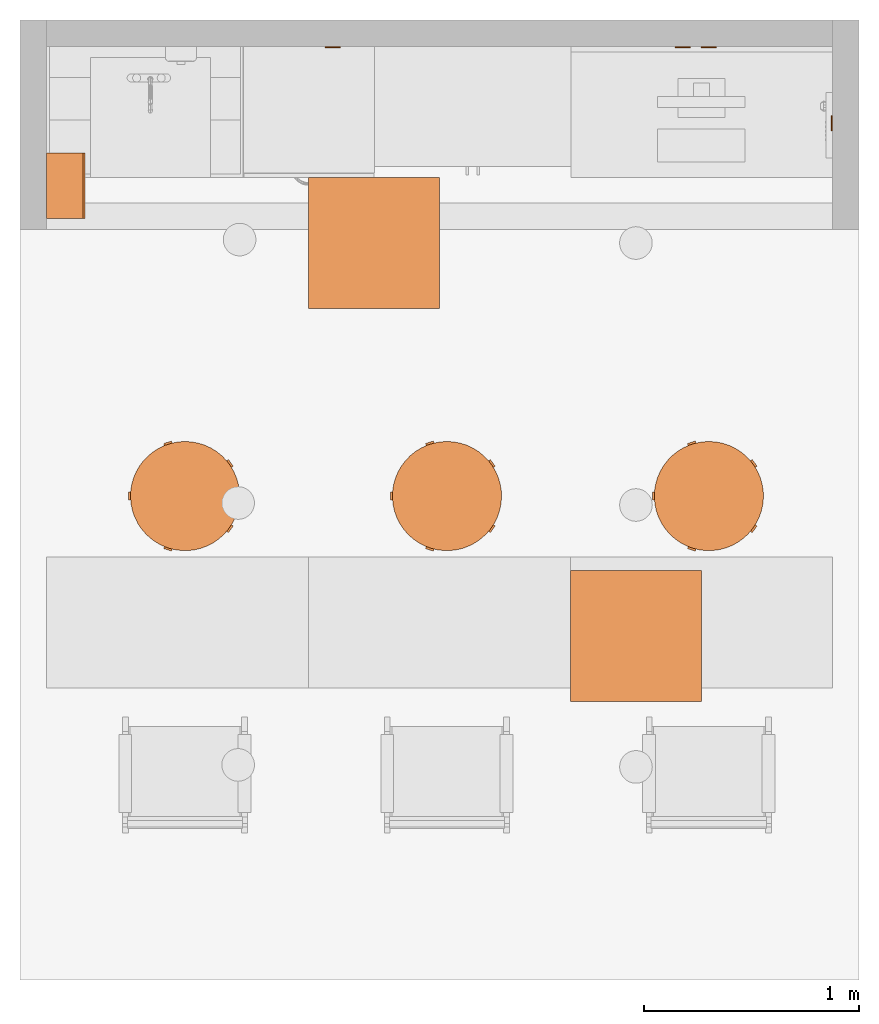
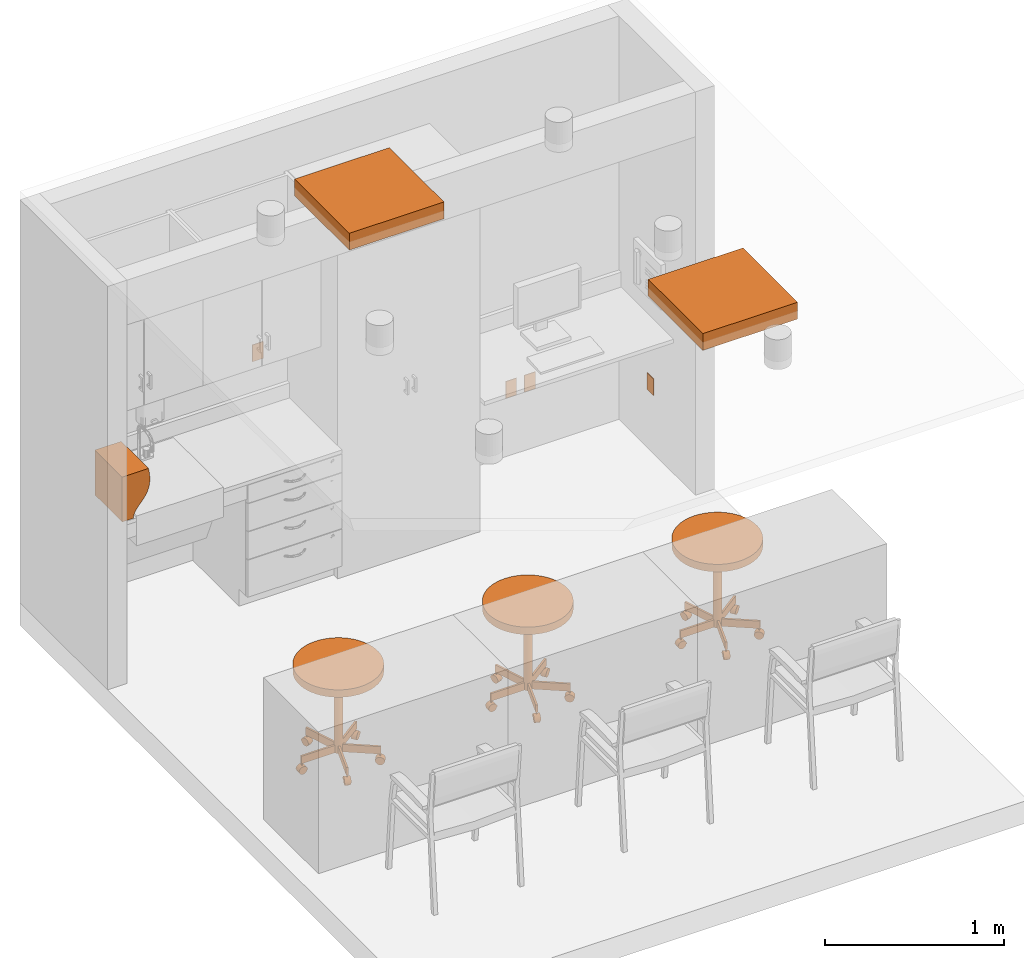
# One storey, part 5 of 8: 10 proxies.
"""IFC2X3 building model written with IfcOpenShell, lengths in feet."""

from ifc_helpers import new_model, entity, si_unit, converted_unit, derived_unit, direction, frame, frame_2d, origin, origin_2d_with_axis, place, context, subcontext, project, spatial, polyline, circle_curve, parameter, trimmed, segment, composite_curve, rectangle, circle, outline, extrude, source, transform, mapped, material, material_list, type_object, type_shapes, element, save


model = new_model("IFC2X3")

# Units and contexts
model_context = context("Model", 3, precision=0.0001, world=origin(), true_north=direction((6.12303176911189e-17, 1.0)))
body_context = subcontext(model_context, "Body", "Model", "MODEL_VIEW")
ifc_project = project(units=[converted_unit("LENGTHUNIT", "FOOT", entity("IfcRatioMeasure", 0.3048), si_unit("LENGTHUNIT", "METRE"), dimensions=[1, 0, 0, 0, 0, 0, 0]), converted_unit("AREAUNIT", "SQUARE FOOT", entity("IfcRatioMeasure", 0.09290304), si_unit("AREAUNIT", "SQUARE_METRE"), dimensions=[2, 0, 0, 0, 0, 0, 0]), converted_unit("VOLUMEUNIT", "CUBIC FOOT", entity("IfcRatioMeasure", 0.028316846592), si_unit("VOLUMEUNIT", "CUBIC_METRE"), dimensions=[3, 0, 0, 0, 0, 0, 0]), converted_unit("PLANEANGLEUNIT", "DEGREE", entity("IfcRatioMeasure", 0.0174532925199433), si_unit("PLANEANGLEUNIT", "RADIAN"), dimensions=[0, 0, 0, 0, 0, 0, 0]), si_unit("MASSUNIT", "GRAM", prefix="KILO"), derived_unit("MASSDENSITYUNIT", [(si_unit("MASSUNIT", "GRAM", prefix="KILO"), 1), (si_unit("LENGTHUNIT", "METRE"), -3)]), si_unit("TIMEUNIT", "SECOND"), si_unit("FREQUENCYUNIT", "HERTZ"), si_unit("THERMODYNAMICTEMPERATUREUNIT", "DEGREE_CELSIUS"), derived_unit("THERMALTRANSMITTANCEUNIT", [(si_unit("MASSUNIT", "GRAM", prefix="KILO"), 1), (si_unit("THERMODYNAMICTEMPERATUREUNIT", "KELVIN"), -1), (si_unit("TIMEUNIT", "SECOND"), -3)]), derived_unit("VOLUMETRICFLOWRATEUNIT", [(si_unit("LENGTHUNIT", "METRE"), 3), (si_unit("TIMEUNIT", "SECOND"), -1)]), si_unit("ELECTRICCURRENTUNIT", "AMPERE"), si_unit("ELECTRICVOLTAGEUNIT", "VOLT"), si_unit("POWERUNIT", "WATT"), si_unit("FORCEUNIT", "NEWTON"), si_unit("ILLUMINANCEUNIT", "LUX"), si_unit("LUMINOUSFLUXUNIT", "LUMEN"), si_unit("LUMINOUSINTENSITYUNIT", "CANDELA"), derived_unit("USERDEFINED", [(si_unit("MASSUNIT", "GRAM", prefix="KILO"), -1), (si_unit("LENGTHUNIT", "METRE"), -2), (si_unit("TIMEUNIT", "SECOND"), 3), (si_unit("LUMINOUSFLUXUNIT", "LUMEN"), 1)]), derived_unit("LINEARVELOCITYUNIT", [(si_unit("LENGTHUNIT", "METRE"), 1), (si_unit("TIMEUNIT", "SECOND"), -1)]), si_unit("PRESSUREUNIT", "PASCAL"), derived_unit("USERDEFINED", [(si_unit("LENGTHUNIT", "METRE"), -2), (si_unit("MASSUNIT", "GRAM", prefix="KILO"), 1), (si_unit("TIMEUNIT", "SECOND"), -2)])], contexts=[model_context])

# Site, building, storey, space
site_placement = place(None, origin())
site = spatial("IfcSite", under=ifc_project, at=site_placement, Name="Default", CompositionType="ELEMENT")
building_placement = place(site_placement, origin())
building = spatial("IfcBuilding", under=site, at=building_placement, Name="EYE CLINIC:  OPTHALMOLOGY AND OPTOMETRY SERVICES (Ch. 233)", CompositionType="ELEMENT")
storey_placement = place(building_placement, origin())
storey = spatial("IfcBuildingStorey", under=building, at=storey_placement, Name="DATUM", CompositionType="ELEMENT", Elevation=0.0)
space_placement = place(storey_placement, origin())
space = spatial("IfcSpace", under=storey, at=space_placement, Name="(OPFD1)", CompositionType="ELEMENT", InteriorOrExteriorSpace="INTERNAL")

# Proxies
building_element_proxy_type_1 = type_object("IfcBuildingElementProxyType", Name="A5082 - Dispenser, Paper Towel, Sensor, Hands Free", PredefinedType="NOTDEFINED")
shared_shape_1 = source(origin(), body_context, "Body", "SweptSolid", [
    extrude(outline(polyline([(-0.394840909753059, -0.5716804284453), (0.162901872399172, -0.5716804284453), (0.181242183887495, -0.466986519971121), (0.189922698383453, -0.373421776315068), (0.189954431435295, -0.2899834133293), (0.182348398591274, -0.215668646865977), (0.168115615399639, -0.149474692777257), (0.148267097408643, -0.0903987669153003), (0.123813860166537, -0.0374380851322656), (0.095766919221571, 0.0104101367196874), (0.0651372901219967, 0.0541486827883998), (0.0329359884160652, 0.0947803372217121), (0.000174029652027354, 0.133307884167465), (-0.0321375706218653, 0.1707341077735), (-0.0629877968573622, 0.208061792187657), (-0.0913656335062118, 0.246293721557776), (-0.116260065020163, 0.2864326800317), (-0.136660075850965, 0.329481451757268), (-0.151554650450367, 0.376442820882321), (-0.159932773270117, 0.4283195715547), (-0.394840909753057, 0.428319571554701), (-0.394840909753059, -0.5716804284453)])), frame((0.0, -0.394840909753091, 0.428319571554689), z_axis=(1.0, 0.0, 0.0), x_axis=(0.0, -1.0, 0.0)), (0.0, 0.0, 1.0), 1.0),
])
type_shapes(building_element_proxy_type_1, [shared_shape_1])
proxy_1_placement = place(space_placement, frame((379.563539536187, 9.10428626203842, 3.5), z_axis=(0.0, 0.0, 1.0), x_axis=(0.0, 1.0, 0.0)))
element("IfcBuildingElementProxy", 1, at=proxy_1_placement, inside=space, type_object=building_element_proxy_type_1, Name="A5082 - Dispenser, Paper Towel, Sensor, Hands Free:A5082 - Dispenser, Paper Towel, Sensor, Hands Free", ObjectType="A5082 - Dispenser, Paper Towel, Sensor, Hands Free", context=body_context, shape_type="MappedRepresentation", body=[
    mapped(shared_shape_1, transform((0.0, 0.0, 0.0), scale=1.0)),
])
ifc_material_1 = material(Name="Stool caster")
ifc_material_2 = material(Name="Stool metal")
ifc_material_3 = material(Name="Stool cushion")
ifc_material_list_1 = material_list([ifc_material_1, ifc_material_2, ifc_material_3])
ifc_material_list_2 = material_list([ifc_material_1, ifc_material_2, ifc_material_3])
building_element_proxy_type_2 = type_object("IfcBuildingElementProxyType", Name="F0340 - Stool, Self Adjusting", PredefinedType="NOTDEFINED", material=ifc_material_list_2)
shared_shape_2 = source(origin(), body_context, "Body", "SweptSolid", [
    extrude(circle(Radius=0.084518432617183, at=frame_2d((0.0, -1.38777878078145e-16), x_axis=(1.0, 0.0))), frame((0.717011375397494, 0.287734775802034, 0.0845184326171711), z_axis=(0.309016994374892, -0.951056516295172, 0.0), x_axis=(-0.951056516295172, -0.309016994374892, 0.0)), (0.0, 0.0, 1.0), 0.104166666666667),
    extrude(outline(composite_curve([segment(polyline([(-0.0925649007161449, 0.0), (0.0925649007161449, 0.0)]), True, "CONTINUOUS"), segment(trimmed(circle_curve(origin_2d_with_axis(), 0.0925649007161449), [parameter(2.03555499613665e-13)], [parameter(180.0)], True, "PARAMETER"), True, "CONTINUOUS")], self_intersect=False)), frame((0.752419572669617, 0.178759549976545, 0.0845184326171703), z_axis=(-0.309016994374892, 0.951056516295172, 0.0), x_axis=(-0.951056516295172, -0.309016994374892, 0.0)), (0.0, 0.0, 1.0), 0.125),
    extrude(circle(Radius=0.0115130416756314, at=frame_2d((7.9106571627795e-18, 1.14165428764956e-16), x_axis=(1.0, 0.0))), frame((0.73310678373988, 0.238198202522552, 0.177083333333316), z_axis=(0.0, 0.0, 1.0), x_axis=(0.309016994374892, -0.951056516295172, 0.0)), (0.0, 0.0, 1.0), 0.0442708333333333),
    extrude(rectangle(XDim=0.0416641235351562, YDim=0.7059128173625, at=frame_2d((1.38777878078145e-17, 0.0), x_axis=(1.0, 0.0))), frame((0.412570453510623, 0.134049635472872, 0.221354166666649), z_axis=(0.0, 0.0, 1.0), x_axis=(-0.309016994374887, 0.951056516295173, 0.0)), (0.0, 0.0, 1.0), 0.166666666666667),
    extrude(circle(Radius=0.084518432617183, at=frame_2d((0.0, -3.7470027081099e-16), x_axis=(1.0, 0.0))), frame((0.410948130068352, -0.654231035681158, 0.0845184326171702), z_axis=(0.809016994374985, 0.587785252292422, 0.0), x_axis=(-0.587785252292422, 0.809016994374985, 0.0)), (0.0, 0.0, 1.0), 0.104166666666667),
    extrude(outline(composite_curve([segment(polyline([(-0.0925649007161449, 0.0), (0.0925649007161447, 0.0)]), True, "CONTINUOUS"), segment(trimmed(circle_curve(origin_2d_with_axis(), 0.0925649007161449), [parameter(2.03555499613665e-13)], [parameter(180.0)], True, "PARAMETER"), True, "CONTINUOUS")], self_intersect=False)), frame((0.402520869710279, -0.660353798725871, 0.0845184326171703), z_axis=(0.809016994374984, 0.587785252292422, 0.0), x_axis=(-0.587785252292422, 0.809016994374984, 0.0)), (0.0, 0.0, 1.0), 0.125),
    extrude(circle(Radius=0.0115130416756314, at=origin_2d_with_axis()), frame((0.453082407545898, -0.623618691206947, 0.177083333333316), z_axis=(0.0, 0.0, 1.0), x_axis=(-0.809016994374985, -0.587785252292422, 0.0)), (0.0, 0.0, 1.0), 0.0442708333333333),
    extrude(rectangle(XDim=0.0416641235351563, YDim=0.705912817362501, at=frame_2d((0.0, -1.38777878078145e-16), x_axis=(1.0, 0.0))), frame((0.254980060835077, -0.350954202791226, 0.221354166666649), z_axis=(0.0, 0.0, 1.0), x_axis=(0.809016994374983, 0.587785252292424, 0.0)), (0.0, 0.0, 1.0), 0.166666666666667),
    extrude(circle(Radius=0.084518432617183, at=frame_2d((-3.2628636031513e-17, -1.38777878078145e-16), x_axis=(1.0, 0.0))), frame((-0.410948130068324, -0.654231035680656, 0.0845184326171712), z_axis=(-0.809016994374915, 0.587785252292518, 0.0), x_axis=(0.587785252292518, 0.809016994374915, 0.0)), (0.0, 0.0, 1.0), 0.104166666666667),
    extrude(outline(composite_curve([segment(trimmed(circle_curve(origin_2d_with_axis(), 0.0925649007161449), [parameter(180.0)], [parameter(360.0)], True, "PARAMETER"), True, "CONTINUOUS"), segment(polyline([(0.0925649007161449, 0.0), (-0.0925649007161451, 0.0)]), True, "CONTINUOUS")], self_intersect=False)), frame((-0.402520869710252, -0.66035379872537, 0.0845184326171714), z_axis=(-0.809016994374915, 0.587785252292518, 0.0), x_axis=(0.587785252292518, 0.809016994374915, 0.0)), (0.0, 0.0, 1.0), 0.125),
    extrude(circle(Radius=0.0115130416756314, at=frame_2d((-4.49094647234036e-17, -3.2628636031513e-17), x_axis=(1.0, 0.0))), frame((-0.453086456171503, -0.623615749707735, 0.177083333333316), z_axis=(0.0, 0.0, 1.0), x_axis=(-0.809016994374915, 0.587785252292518, 0.0)), (0.0, 0.0, 1.0), 0.0442708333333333),
    extrude(rectangle(XDim=0.0416641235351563, YDim=0.7059128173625, at=frame_2d((-4.16333634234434e-17, 5.55111512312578e-17), x_axis=(1.0, 0.0))), frame((-0.254984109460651, -0.350951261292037, 0.221354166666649), z_axis=(0.0, 0.0, 1.0), x_axis=(0.809016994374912, -0.587785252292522, 0.0)), (0.0, 0.0, 1.0), 0.166666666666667),
    extrude(circle(Radius=0.084518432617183, at=frame_2d((0.0, -1.38777878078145e-16), x_axis=(1.0, 0.0))), frame((-0.749200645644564, 0.188666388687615, 0.0845184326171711), z_axis=(0.309016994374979, 0.951056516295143, 0.0), x_axis=(0.951056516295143, -0.309016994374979, 0.0)), (0.0, 0.0, 1.0), 0.104166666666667),
    extrude(outline(composite_curve([segment(trimmed(circle_curve(origin_2d_with_axis(), 0.0925649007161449), [parameter(180.0)], [parameter(360.0)], True, "PARAMETER"), True, "CONTINUOUS"), segment(polyline([(0.0925649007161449, 0.0), (-0.0925649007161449, 0.0)]), True, "CONTINUOUS")], self_intersect=False)), frame((-0.752419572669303, 0.178759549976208, 0.0845184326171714), z_axis=(0.309016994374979, 0.951056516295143, 0.0), x_axis=(0.951056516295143, -0.309016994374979, 0.0)), (0.0, 0.0, 1.0), 0.125),
    extrude(circle(Radius=0.0115130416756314, at=frame_2d((7.91065716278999e-18, -1.14165428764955e-16), x_axis=(1.0, 0.0))), frame((-0.733105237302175, 0.238202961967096, 0.177083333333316), z_axis=(0.0, 0.0, 1.0), x_axis=(0.309016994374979, 0.951056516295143, 0.0)), (0.0, 0.0, 1.0), 0.0442708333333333),
    extrude(rectangle(XDim=0.0416641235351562, YDim=0.7059128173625, at=origin_2d_with_axis()), frame((-0.412568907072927, 0.134054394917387, 0.221354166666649), z_axis=(0.0, 0.0, 1.0), x_axis=(-0.309016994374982, -0.951056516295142, 0.0)), (0.0, 0.0, 1.0), 0.166666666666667),
    extrude(circle(Radius=0.084518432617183, at=frame_2d((-1.76415182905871e-31, -1.38777878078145e-16), x_axis=(1.0, 0.0))), frame((-0.0520833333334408, 0.770833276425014, 0.0845184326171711), z_axis=(1.0, 0.0, 0.0), x_axis=(0.0, -1.0, 0.0)), (0.0, 0.0, 1.0), 0.104166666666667),
    extrude(outline(composite_curve([segment(trimmed(circle_curve(origin_2d_with_axis(), 0.0925649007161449), [parameter(180.0)], [parameter(360.0)], True, "PARAMETER"), True, "CONTINUOUS"), segment(polyline([(0.0925649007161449, 0.0), (-0.0925649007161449, 0.0)]), True, "CONTINUOUS")], self_intersect=False)), frame((-0.0625000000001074, 0.770833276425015, 0.0845184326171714), z_axis=(1.0, 0.0, 0.0), x_axis=(0.0, -1.0, 0.0)), (0.0, 0.0, 1.0), 0.125),
    extrude(circle(Radius=0.0115130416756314, at=frame_2d((7.04731412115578e-19, 1.79171670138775e-32), x_axis=(1.0, 0.0))), frame((2.50218814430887e-06, 0.770833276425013, 0.177083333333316)), (0.0, 0.0, 1.0), 0.0442708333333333),
    extrude(rectangle(XDim=0.0416641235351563, YDim=0.7059128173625, at=frame_2d((3.46944695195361e-18, 5.55111512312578e-17), x_axis=(1.0, 0.0))), frame((2.50218813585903e-06, 0.433801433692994, 0.221354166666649), z_axis=(0.0, 0.0, 1.0), x_axis=(-1.0, 0.0, 0.0)), (0.0, 0.0, 1.0), 0.166666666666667),
    extrude(circle(Radius=0.0834863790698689, at=frame_2d((2.89333175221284e-18, -1.34875966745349e-16), x_axis=(1.0, 0.0))), frame((0.0, 0.0, 0.221354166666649)), (0.0, 0.0, 1.0), 1.77864583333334),
    extrude(circle(Radius=0.833333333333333, at=frame_2d((2.28760446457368e-17, -1.34628714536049e-15), x_axis=(1.0, 0.0))), frame((0.0, 0.0, 2.0)), (0.0, 0.0, 1.0), 0.166666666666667),
])
type_shapes(building_element_proxy_type_2, [shared_shape_2])
proxy_2_placement = place(space_placement, frame((389.67812286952, 4.86470292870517, 0.0), z_axis=(0.0, 0.0, 1.0), x_axis=(0.0, 1.0, 0.0)))
element("IfcBuildingElementProxy", 2, at=proxy_2_placement, inside=space, type_object=building_element_proxy_type_2, material=ifc_material_list_1, Name="F0340 - Stool, Self Adjusting:F0340 - Stool, Self Adjusting", ObjectType="F0340 - Stool, Self Adjusting", context=body_context, shape_type="MappedRepresentation", body=[
    mapped(shared_shape_2, transform((0.0, 0.0, 0.0), scale=1.0)),
])
ifc_material_list_3 = material_list([ifc_material_1, ifc_material_2, ifc_material_3])
proxy_3_placement = place(space_placement, frame((381.67812286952, 4.86470292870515, 0.0), z_axis=(0.0, 0.0, 1.0), x_axis=(0.0, 1.0, 0.0)))
element("IfcBuildingElementProxy", 3, at=proxy_3_placement, inside=space, type_object=building_element_proxy_type_2, material=ifc_material_list_3, Name="F0340 - Stool, Self Adjusting:F0340 - Stool, Self Adjusting", ObjectType="F0340 - Stool, Self Adjusting", context=body_context, shape_type="MappedRepresentation", body=[
    mapped(shared_shape_2, transform((0.0, 0.0, 0.0), scale=1.0)),
])
ifc_material_list_4 = material_list([ifc_material_1, ifc_material_2, ifc_material_3])
proxy_4_placement = place(space_placement, frame((385.67812286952, 4.86470292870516, 0.0), z_axis=(0.0, 0.0, 1.0), x_axis=(0.0, 1.0, 0.0)))
element("IfcBuildingElementProxy", 4, at=proxy_4_placement, inside=space, type_object=building_element_proxy_type_2, material=ifc_material_list_4, Name="F0340 - Stool, Self Adjusting:F0340 - Stool, Self Adjusting", ObjectType="F0340 - Stool, Self Adjusting", context=body_context, shape_type="MappedRepresentation", body=[
    mapped(shared_shape_2, transform((0.0, 0.0, 0.0), scale=1.0)),
])
building_element_proxy_type_3 = type_object("IfcBuildingElementProxyType", Name="24\" x 24\"", PredefinedType="NOTDEFINED")
shared_shape_3 = source(origin(), body_context, "Body", "SweptSolid", [
    extrude(rectangle(XDim=2.00000000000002, YDim=2.00000000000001, at=origin_2d_with_axis()), frame((0.0, 0.0, 8.0), z_axis=(0.0, 0.0, 1.0), x_axis=(0.0, 1.0, 0.0)), (0.0, 0.0, 1.0), 0.375),
])
type_shapes(building_element_proxy_type_3, [shared_shape_3])
proxy_5_placement = place(space_placement, frame((384.563539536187, 8.72928626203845, 1.0)))
element("IfcBuildingElementProxy", 5, at=proxy_5_placement, inside=space, type_object=building_element_proxy_type_3, Name="Supply Diffuser:24\" x 24\"", ObjectType="24\" x 24\"", context=body_context, shape_type="MappedRepresentation", body=[
    mapped(shared_shape_3, transform((0.0, 0.0, 0.0), scale=1.0)),
])
building_element_proxy_type_4 = type_object("IfcBuildingElementProxyType", Name="24\" x 24\"", PredefinedType="NOTDEFINED")
shared_shape_4 = source(origin(), body_context, "Body", "SweptSolid", [
    extrude(rectangle(XDim=2.0, YDim=2.0, at=origin_2d_with_axis()), frame((0.0, 0.0, 8.0)), (0.0, 0.0, 1.0), 0.375),
])
type_shapes(building_element_proxy_type_4, [shared_shape_4])
proxy_6_placement = place(space_placement, frame((388.563539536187, 2.72928626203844, 1.0)))
element("IfcBuildingElementProxy", 6, at=proxy_6_placement, inside=space, type_object=building_element_proxy_type_4, Name="Return Register:24\" x 24\"", ObjectType="24\" x 24\"", context=body_context, shape_type="MappedRepresentation", body=[
    mapped(shared_shape_4, transform((0.0, 0.0, 0.0), scale=1.0)),
])
building_element_proxy_type_5 = type_object("IfcBuildingElementProxyType", Name="Duplex", PredefinedType="NOTDEFINED")
shared_shape_5 = source(origin(), body_context, "Body", "SweptSolid", [
    extrude(rectangle(XDim=0.0156249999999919, YDim=0.229166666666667, at=origin_2d_with_axis()), frame((0.0, 0.210937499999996, 0.0), z_axis=(0.0, 0.0, 1.0), x_axis=(0.0, 1.0, 0.0)), (0.0, 0.0, 1.0), 0.37500000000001),
])
type_shapes(building_element_proxy_type_5, [shared_shape_5])
for number, where, z_axis, x_axis, name in (
    (7, (389.282289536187, 11.9324112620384, 1.3125), (0.0, 0.0, 1.0), (-1.0, 0.0, 0.0), "Outlet, Duplex, Wall:Duplex"),
    (8, (383.937181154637, 11.9324112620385, 4.0), (0.0, 0.0, 1.0), (-1.0, 0.0, 0.0), "Outlet, Duplex, Wall:Duplex"),
):
    element("IfcBuildingElementProxy", number, at=place(space_placement, frame(where, z_axis=z_axis, x_axis=x_axis)), inside=space, type_object=building_element_proxy_type_5, Name=name, ObjectType="Duplex", context=body_context, shape_type="MappedRepresentation", body=[
        mapped(shared_shape_5, transform((0.0, 0.0, 0.0), scale=1.0)),
    ])
building_element_proxy_type_6 = type_object("IfcBuildingElementProxyType", Name="Telephone/Data", PredefinedType="NOTDEFINED")
shared_shape_6 = source(origin(), body_context, "Body", "SweptSolid", [
    extrude(rectangle(XDim=0.0156249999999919, YDim=0.229166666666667, at=origin_2d_with_axis()), frame((0.0, 0.210937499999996, 0.0), z_axis=(0.0, 0.0, 1.0), x_axis=(0.0, 1.0, 0.0)), (0.0, 0.0, 1.0), 0.375),
])
type_shapes(building_element_proxy_type_6, [shared_shape_6])
proxy_7_placement = place(space_placement, frame((391.766664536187, 10.5600154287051, 1.3125), z_axis=(0.0, 0.0, 1.0), x_axis=(0.0, 1.0, 0.0)))
element("IfcBuildingElementProxy", 9, at=proxy_7_placement, inside=space, type_object=building_element_proxy_type_6, Name="Outlet, Communications:Telephone/Data", ObjectType="Telephone/Data", context=body_context, shape_type="MappedRepresentation", body=[
    mapped(shared_shape_6, transform((0.0, 0.0, 0.0), scale=1.0)),
])
building_element_proxy_type_7 = type_object("IfcBuildingElementProxyType", Name="Telephone/Data", PredefinedType="NOTDEFINED")
shared_shape_7 = source(origin(), body_context, "Body", "SweptSolid", [
    extrude(rectangle(XDim=0.229166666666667, YDim=0.0156249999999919, at=origin_2d_with_axis()), frame((0.0, -0.210937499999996, 0.0), z_axis=(0.0, 0.0, 1.0), x_axis=(-1.0, 0.0, 0.0)), (0.0, 0.0, 1.0), 0.375),
])
type_shapes(building_element_proxy_type_7, [shared_shape_7])
proxy_8_placement = place(space_placement, frame((389.67812286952, 11.9324112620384, 1.3125)))
element("IfcBuildingElementProxy", 10, at=proxy_8_placement, inside=space, type_object=building_element_proxy_type_7, Name="Outlet, Communications:Telephone/Data", ObjectType="Telephone/Data", context=body_context, shape_type="MappedRepresentation", body=[
    mapped(shared_shape_7, transform((0.0, 0.0, 0.0), scale=1.0)),
])

save(model, "model.ifc")
